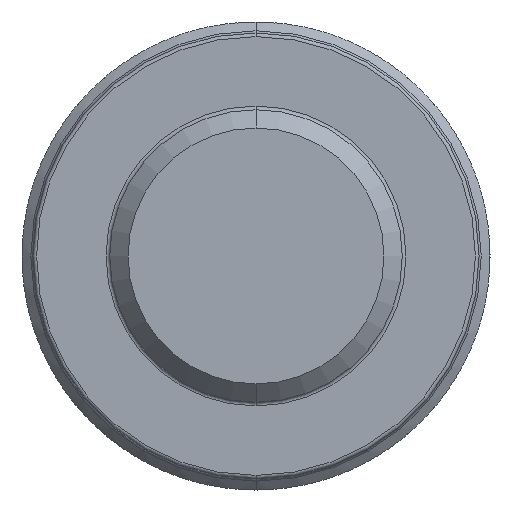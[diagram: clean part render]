
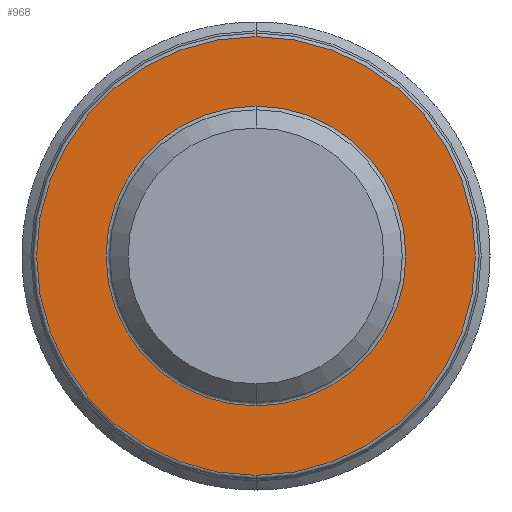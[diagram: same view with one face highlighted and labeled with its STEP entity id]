
A CAD part, front view. The second image highlights one B-rep face of the part: STEP entity #968.
In plain terms, the highlighted planar face has unit normal (0, -1, 0).
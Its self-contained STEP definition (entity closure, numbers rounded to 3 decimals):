
#106 = DIRECTION ( 'NONE',  ( 0., -1., 0. ) ) ;
#577 = PLANE ( 'NONE',  #1937 ) ;
#578 = CARTESIAN_POINT ( 'NONE',  ( 0., -8., 0. ) ) ;
#691 = CARTESIAN_POINT ( 'NONE',  ( 0., -8., 6. ) ) ;
#705 = EDGE_CURVE ( 'NONE', #1695, #2664, #4639, .T. ) ;
#883 = ORIENTED_EDGE ( 'NONE', *, *, #7871, .T. ) ;
#968 = ADVANCED_FACE ( 'NONE', ( #8150, #4437 ), #577, .T. ) ;
#1290 = CARTESIAN_POINT ( 'NONE',  ( 0., -8., 0. ) ) ;
#1695 = VERTEX_POINT ( 'NONE', #2912 ) ;
#1787 = DIRECTION ( 'NONE',  ( 0., -1., 0. ) ) ;
#1937 = AXIS2_PLACEMENT_3D ( 'NONE', #7687, #1787, #4356 ) ;
#2134 = DIRECTION ( 'NONE',  ( 0., 0., -1. ) ) ;
#2171 = DIRECTION ( 'NONE',  ( 0., 0., -1. ) ) ;
#2473 = AXIS2_PLACEMENT_3D ( 'NONE', #6602, #3429, #2134 ) ;
#2605 = CARTESIAN_POINT ( 'NONE',  ( 0., -8., 4.1 ) ) ;
#2645 = EDGE_LOOP ( 'NONE', ( #6000, #3871 ) ) ;
#2664 = VERTEX_POINT ( 'NONE', #2605 ) ;
#2810 = CARTESIAN_POINT ( 'NONE',  ( 0., -8., 0. ) ) ;
#2912 = CARTESIAN_POINT ( 'NONE',  ( 0., -8., -4.1 ) ) ;
#2937 = AXIS2_PLACEMENT_3D ( 'NONE', #1290, #106, #6402 ) ;
#3368 = VERTEX_POINT ( 'NONE', #691 ) ;
#3429 = DIRECTION ( 'NONE',  ( 0., 1., 0. ) ) ;
#3858 = ORIENTED_EDGE ( 'NONE', *, *, #5552, .T. ) ;
#3871 = ORIENTED_EDGE ( 'NONE', *, *, #4523, .T. ) ;
#4071 = VERTEX_POINT ( 'NONE', #4687 ) ;
#4356 = DIRECTION ( 'NONE',  ( 0., 0., -1. ) ) ;
#4437 = FACE_OUTER_BOUND ( 'NONE', #5143, .T. ) ;
#4523 = EDGE_CURVE ( 'NONE', #2664, #1695, #8222, .T. ) ;
#4639 = CIRCLE ( 'NONE', #2473, 4.1 ) ;
#4687 = CARTESIAN_POINT ( 'NONE',  ( 0., -8., -6. ) ) ;
#5143 = EDGE_LOOP ( 'NONE', ( #3858, #883 ) ) ;
#5552 = EDGE_CURVE ( 'NONE', #4071, #3368, #5609, .T. ) ;
#5609 = CIRCLE ( 'NONE', #6695, 6. ) ;
#5793 = AXIS2_PLACEMENT_3D ( 'NONE', #578, #6416, #8120 ) ;
#6000 = ORIENTED_EDGE ( 'NONE', *, *, #705, .T. ) ;
#6402 = DIRECTION ( 'NONE',  ( 0., 0., -1. ) ) ;
#6416 = DIRECTION ( 'NONE',  ( 0., 1., 0. ) ) ;
#6575 = CIRCLE ( 'NONE', #2937, 6. ) ;
#6602 = CARTESIAN_POINT ( 'NONE',  ( 0., -8., 0. ) ) ;
#6695 = AXIS2_PLACEMENT_3D ( 'NONE', #2810, #7945, #2171 ) ;
#7687 = CARTESIAN_POINT ( 'NONE',  ( 4., -8., 0. ) ) ;
#7871 = EDGE_CURVE ( 'NONE', #3368, #4071, #6575, .T. ) ;
#7945 = DIRECTION ( 'NONE',  ( 0., -1., 0. ) ) ;
#8120 = DIRECTION ( 'NONE',  ( 0., 0., -1. ) ) ;
#8150 = FACE_BOUND ( 'NONE', #2645, .T. ) ;
#8222 = CIRCLE ( 'NONE', #5793, 4.1 ) ;
